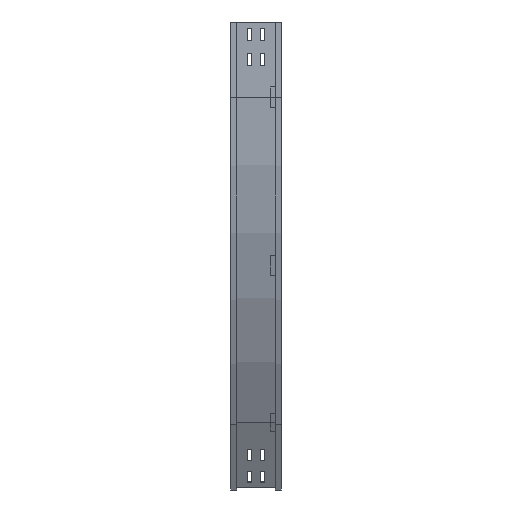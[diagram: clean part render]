
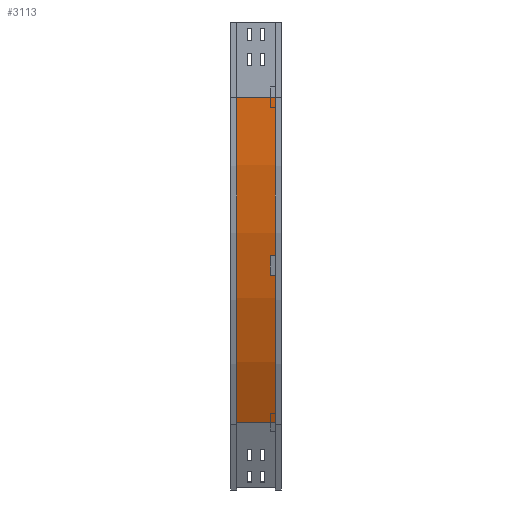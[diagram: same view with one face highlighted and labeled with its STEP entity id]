
A CAD part, left-side view. The second image highlights one B-rep face of the part: STEP entity #3113.
In plain terms, the highlighted cylindrical face has radius 1300 mm (diameter 2600 mm), a partial arc.
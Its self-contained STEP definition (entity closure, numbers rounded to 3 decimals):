
#93 = LINE ( 'NONE', #4262, #3660 ) ;
#126 = CARTESIAN_POINT ( 'NONE',  ( 1309., 12., -150. ) ) ;
#179 = EDGE_CURVE ( 'NONE', #3367, #1203, #3717, .T. ) ;
#1145 = DIRECTION ( 'NONE',  ( 0., -1., 0. ) ) ;
#1156 = CARTESIAN_POINT ( 'NONE',  ( 9., 88., -150. ) ) ;
#1177 = DIRECTION ( 'NONE',  ( 0., -1., 0. ) ) ;
#1203 = VERTEX_POINT ( 'NONE', #1712 ) ;
#1220 = CARTESIAN_POINT ( 'NONE',  ( 9., 12., -150. ) ) ;
#1237 = VECTOR ( 'NONE', #3898, 1000. ) ;
#1474 = DIRECTION ( 'NONE',  ( -1., 0., 0. ) ) ;
#1498 = VERTEX_POINT ( 'NONE', #2247 ) ;
#1564 = CIRCLE ( 'NONE', #2140, 1300. ) ;
#1590 = CYLINDRICAL_SURFACE ( 'NONE', #2863, 1300. ) ;
#1609 = DIRECTION ( 'NONE',  ( -1., 0., 0. ) ) ;
#1712 = CARTESIAN_POINT ( 'NONE',  ( 183.167, 88., -800. ) ) ;
#1717 = EDGE_CURVE ( 'NONE', #1203, #1498, #2453, .T. ) ;
#1819 = AXIS2_PLACEMENT_3D ( 'NONE', #2211, #3208, #1474 ) ;
#2140 = AXIS2_PLACEMENT_3D ( 'NONE', #126, #1177, #1609 ) ;
#2173 = CARTESIAN_POINT ( 'NONE',  ( 183.167, 12., -800. ) ) ;
#2178 = EDGE_LOOP ( 'NONE', ( #3842, #4052, #2483, #2673 ) ) ;
#2211 = CARTESIAN_POINT ( 'NONE',  ( 1309., 88., -150. ) ) ;
#2247 = CARTESIAN_POINT ( 'NONE',  ( 183.167, 12., -800. ) ) ;
#2252 = VERTEX_POINT ( 'NONE', #1220 ) ;
#2453 = LINE ( 'NONE', #2173, #1237 ) ;
#2483 = ORIENTED_EDGE ( 'NONE', *, *, #179, .T. ) ;
#2609 = EDGE_CURVE ( 'NONE', #3367, #2252, #93, .T. ) ;
#2634 = FACE_OUTER_BOUND ( 'NONE', #2178, .T. ) ;
#2673 = ORIENTED_EDGE ( 'NONE', *, *, #1717, .T. ) ;
#2863 = AXIS2_PLACEMENT_3D ( 'NONE', #2916, #4344, #3008 ) ;
#2916 = CARTESIAN_POINT ( 'NONE',  ( 1309., 0., -150. ) ) ;
#3008 = DIRECTION ( 'NONE',  ( 0., 0., -1. ) ) ;
#3113 = ADVANCED_FACE ( 'NONE', ( #2634 ), #1590, .T. ) ;
#3208 = DIRECTION ( 'NONE',  ( 0., -1., 0. ) ) ;
#3367 = VERTEX_POINT ( 'NONE', #1156 ) ;
#3477 = EDGE_CURVE ( 'NONE', #2252, #1498, #1564, .T. ) ;
#3660 = VECTOR ( 'NONE', #1145, 1000. ) ;
#3717 = CIRCLE ( 'NONE', #1819, 1300. ) ;
#3842 = ORIENTED_EDGE ( 'NONE', *, *, #3477, .F. ) ;
#3898 = DIRECTION ( 'NONE',  ( 0., -1., 0. ) ) ;
#4052 = ORIENTED_EDGE ( 'NONE', *, *, #2609, .F. ) ;
#4262 = CARTESIAN_POINT ( 'NONE',  ( 9., 12., -150. ) ) ;
#4344 = DIRECTION ( 'NONE',  ( 0., -1., 0. ) ) ;
